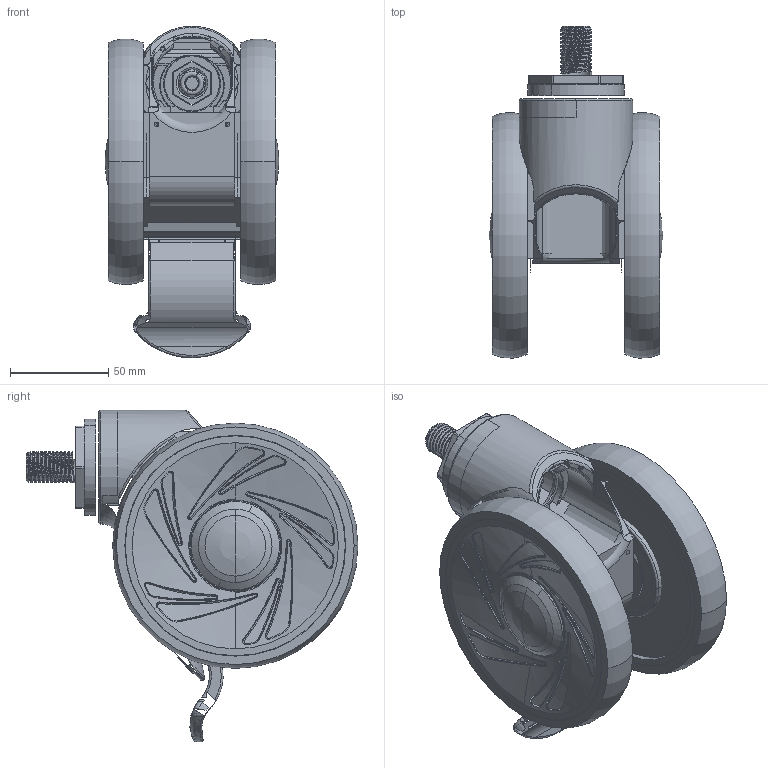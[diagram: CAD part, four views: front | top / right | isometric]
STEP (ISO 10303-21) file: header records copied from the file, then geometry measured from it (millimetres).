
FILE_DESCRIPTION((''),'2;1');
FILE_NAME('PRT0003','2025-08-12T11:14:11',('Administrator'),(''),'CREO PARAMETRIC BY PTC INC, 2022124','CREO PARAMETRIC BY PTC INC, 2022124','');
FILE_SCHEMA(('AUTOMOTIVE_DESIGN { 1 0 10303 214 1 1 1 1 }'));
Length unit declared in the file: millimetre
Products named in the file (1): PRT0003
Bounding box: 88.4 x 168.92 x 168.77 mm (x, y, z)
Surface area: 110301.4 mm2 (no closed solid volume)
Topology: 0 solids, 63 shells, 325 faces, 1923 edges, 1634 vertices
Faces by surface type: bspline 136, plane 67, cylinder 59, torus 44, cone 9, extrusion 6, sphere 4
Entity records: 35649 total; most frequent: CARTESIAN_POINT 20757, ORIENTED_EDGE 2338, DIRECTION 2110, EDGE_CURVE 1919, VERTEX_POINT 1634, B_SPLINE_CURVE_WITH_KNOTS 865, AXIS2_PLACEMENT_3D 848, CIRCLE 655
